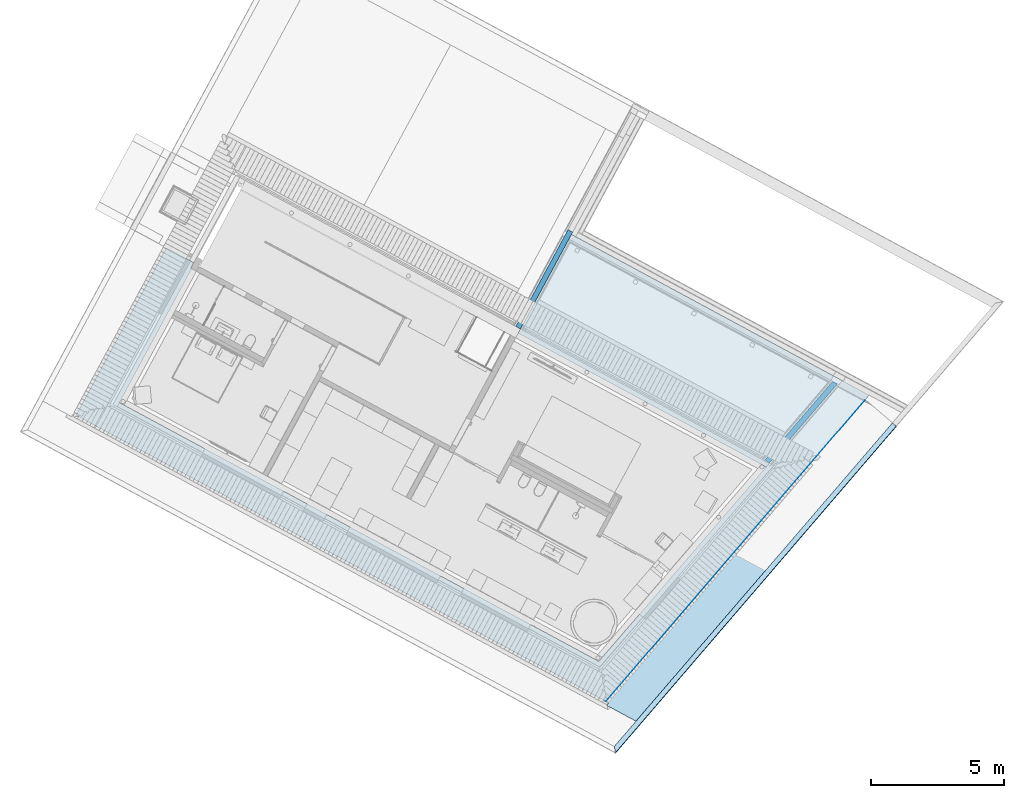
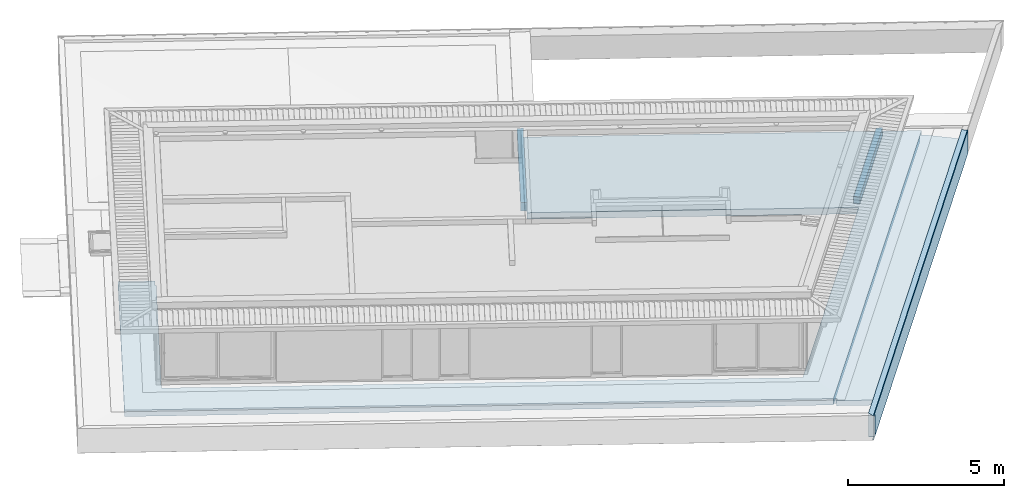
# One storey, part 2 of 48: 5 slabs.
"""IFC2X3 building model written with IfcOpenShell, lengths in metres."""

from ifc_helpers import new_model, entity, si_unit, converted_unit, derived_unit, money_unit, direction, frame, origin_with_axes, place, context, subcontext, project, spatial, faceted_brep, material, material_list, type_object, element, save


model = new_model("IFC2X3")

# Units and contexts
model_context = context("Model", 3, precision=1e-05, world=origin_with_axes(), true_north=direction((0.0, 1.0)))
body_context = subcontext(model_context, "Body", "Model", "MODEL_VIEW")
ifc_project = project(units=[si_unit("LENGTHUNIT", "METRE"), si_unit("AREAUNIT", "SQUARE_METRE"), si_unit("VOLUMEUNIT", "CUBIC_METRE"), converted_unit("PLANEANGLEUNIT", "DEGREE", entity("IfcPlaneAngleMeasure", 0.0174532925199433), si_unit("PLANEANGLEUNIT", "RADIAN"), dimensions=[0, 0, 0, 0, 0, 0, 0]), money_unit("EUR"), converted_unit("TIMEUNIT", "Year", entity("IfcTimeMeasure", 31556926.0), si_unit("TIMEUNIT", "SECOND"), dimensions=[0, 0, 1, 0, 0, 0, 0]), si_unit("MASSUNIT", "GRAM", prefix="KILO"), si_unit("THERMODYNAMICTEMPERATUREUNIT", "DEGREE_CELSIUS"), si_unit("LUMINOUSINTENSITYUNIT", "LUMEN"), si_unit("ENERGYUNIT", "JOULE", prefix="MEGA"), derived_unit("THERMALCONDUCTANCEUNIT", [(si_unit("POWERUNIT", "WATT"), 1), (si_unit("LENGTHUNIT", "METRE"), -1), (si_unit("THERMODYNAMICTEMPERATUREUNIT", "KELVIN"), -1)]), derived_unit("SPECIFICHEATCAPACITYUNIT", [(si_unit("ENERGYUNIT", "JOULE"), 1), (si_unit("MASSUNIT", "GRAM", prefix="KILO"), -1), (si_unit("THERMODYNAMICTEMPERATUREUNIT", "KELVIN"), -1)]), derived_unit("MASSDENSITYUNIT", [(si_unit("MASSUNIT", "GRAM", prefix="KILO"), 1), (si_unit("VOLUMEUNIT", "CUBIC_METRE"), -1)])], contexts=[model_context])

# Site, building, storey
site_placement = place(None, frame((-3.949935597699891, 1.740105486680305, 0.0), z_axis=(0.0, 0.0, 1.0), x_axis=(0.8799804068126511, -0.475009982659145, 0.0)))
site = spatial("IfcSite", under=ifc_project, at=site_placement, Name="Gelände", CompositionType="ELEMENT")
building_placement = place(site_placement, origin_with_axes())
building = spatial("IfcBuilding", under=site, at=building_placement, Name="Gebäude", CompositionType="ELEMENT")
storey_placement = place(building_placement, frame((0.0, 0.0, 4.55), z_axis=(0.0, 0.0, 1.0), x_axis=(1.0, 0.0, 0.0)))
storey = spatial("IfcBuildingStorey", under=building, at=storey_placement, Name="Staffelgeschoss", CompositionType="ELEMENT", Elevation=4.55)

# Slabs
ifc_material_1 = material(Name="_SIWH - Beton, Stahlbeton")
slab_type_1 = type_object("IfcSlabType", Name="_SIWH - Beton, Stahlbeton 250", PredefinedType="NOTDEFINED")
slab_1_placement = place(storey_placement, frame((4.182683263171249, 7.393034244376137, -0.3999999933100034), z_axis=(0.0, 0.0, 1.0), x_axis=(1.0, 0.0, 0.0)))
element("IfcSlab", 1, at=slab_1_placement, inside=storey, type_object=slab_type_1, material=ifc_material_1, Name="Decke009", PredefinedType="NOTDEFINED", context=body_context, shape_type="Brep", body=[
    faceted_brep([(1.174799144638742, 0.0, -0.2499999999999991), (1.17479817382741, -0.03997388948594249, -0.2499999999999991), (1.17479817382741, -0.2399999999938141, -0.2499999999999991), (1.214797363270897, -0.2399999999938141, -0.2499999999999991), (1.214797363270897, -5.968046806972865, -0.2499999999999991), (21.73344188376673, -5.968046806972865, -0.2499999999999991), (23.79364780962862, 3.464766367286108, -0.2499999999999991), (13.18477730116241, 3.464766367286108, -0.2499999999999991), (13.18479451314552, 7.690011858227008, -0.2499999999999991), (25.92431329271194, 7.690011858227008, -0.2499999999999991), (22.67915953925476, -7.168046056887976, -0.2499999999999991), (-0.0002009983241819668, -7.168046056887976, -0.2499999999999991), (0.0, 0.0, -0.2499999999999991), (17.53351601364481, -7.109519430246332, -0.2499999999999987), (17.55032962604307, -7.092705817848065, -0.2499999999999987), (17.56112462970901, -7.071519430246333, -0.2499999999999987), (17.56484433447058, -7.048034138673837, -0.2499999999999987), (17.56112462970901, -7.024548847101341, -0.2499999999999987), (17.55032962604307, -7.003362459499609, -0.2499999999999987), (17.53351601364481, -6.986548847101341, -0.2499999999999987), (17.51232962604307, -6.975753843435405, -0.2499999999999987), (17.48884433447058, -6.972034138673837, -0.2499999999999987), (17.46535904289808, -6.975753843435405, -0.2499999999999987), (17.44417265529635, -6.986548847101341, -0.2499999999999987), (17.42735904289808, -7.003362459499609, -0.2499999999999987), (17.41656403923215, -7.024548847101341, -0.2499999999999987), (17.41284433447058, -7.048034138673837, -0.2499999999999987), (17.41656403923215, -7.071519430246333, -0.2499999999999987), (17.42735904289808, -7.092705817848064, -0.2499999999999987), (17.44417265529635, -7.109519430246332, -0.2499999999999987), (17.46535904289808, -7.120314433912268, -0.2499999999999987), (17.48884433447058, -7.124034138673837, -0.2499999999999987), (17.51232962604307, -7.120314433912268, -0.2499999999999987), (24.87340347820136, 3.152569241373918, -0.2499999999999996), (24.8884705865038, 3.170964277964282, -0.2499999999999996), (24.89711587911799, 3.193114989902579, -0.2499999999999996), (24.89849309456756, 3.216853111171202, -0.2499999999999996), (24.89246742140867, 3.239854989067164, -0.2499999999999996), (24.87962869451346, 3.259869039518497, -0.2499999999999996), (24.8612336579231, 3.274936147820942, -0.2499999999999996), (24.8390829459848, 3.283581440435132, -0.2499999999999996), (24.81534482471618, 3.284958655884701, -0.2499999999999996), (24.79234294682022, 3.278932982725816, -0.2499999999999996), (24.77232889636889, 3.266094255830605, -0.2499999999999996), (24.75726178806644, 3.247699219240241, -0.2499999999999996), (24.74861649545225, 3.225548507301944, -0.2499999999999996), (24.74723928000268, 3.201810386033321, -0.2499999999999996), (24.75326495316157, 3.17880850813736, -0.2499999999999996), (24.76610368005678, 3.158794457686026, -0.2499999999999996), (24.78449871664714, 3.143727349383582, -0.2499999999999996), (24.80664942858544, 3.135082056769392, -0.2499999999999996), (24.83038754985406, 3.133704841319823, -0.2499999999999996), (24.85338942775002, 3.139730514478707, -0.2499999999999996), (20.10018268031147, -7.109519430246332, -0.2499999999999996), (20.11699629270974, -7.092705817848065, -0.2499999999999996), (20.12779129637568, -7.071519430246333, -0.2499999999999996), (20.13151100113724, -7.048034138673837, -0.2499999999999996), (20.12779129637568, -7.024548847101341, -0.2499999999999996), (20.11699629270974, -7.003362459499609, -0.2499999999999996), (20.10018268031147, -6.986548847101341, -0.2499999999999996), (20.07899629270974, -6.975753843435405, -0.2499999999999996), (20.05551100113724, -6.972034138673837, -0.2499999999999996), (20.03202570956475, -6.975753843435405, -0.2499999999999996), (20.01083932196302, -6.986548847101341, -0.2499999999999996), (19.99402570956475, -7.003362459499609, -0.2499999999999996), (19.98323070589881, -7.024548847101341, -0.2499999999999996), (19.97951100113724, -7.048034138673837, -0.2499999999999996), (19.98323070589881, -7.071519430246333, -0.2499999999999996), (19.99402570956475, -7.092705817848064, -0.2499999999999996), (20.01083932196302, -7.109519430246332, -0.2499999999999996), (20.03202570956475, -7.120314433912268, -0.2499999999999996), (20.05551100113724, -7.124034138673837, -0.2499999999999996), (20.07899629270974, -7.120314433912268, -0.2499999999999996), (24.30984373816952, 0.5722671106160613, -0.2499999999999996), (24.32491084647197, 0.5906621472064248, -0.2499999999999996), (24.33355613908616, 0.6128128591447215, -0.2499999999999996), (24.33493335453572, 0.6365509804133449, -0.2499999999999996), (24.32890768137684, 0.659552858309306, -0.2499999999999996), (24.31606895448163, 0.6795669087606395, -0.2499999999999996), (24.29767391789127, 0.694634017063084, -0.2499999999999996), (24.27552320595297, 0.7032793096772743, -0.2499999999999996), (24.25178508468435, 0.7046565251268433, -0.2499999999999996), (24.22878320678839, 0.6986308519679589, -0.2499999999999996), (24.20876915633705, 0.6857921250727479, -0.2499999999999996), (24.19370204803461, 0.6673970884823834, -0.2499999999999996), (24.18505675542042, 0.6452463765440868, -0.2499999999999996), (24.18367953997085, 0.6215082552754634, -0.2499999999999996), (24.18970521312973, 0.5985063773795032, -0.2499999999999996), (24.20254394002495, 0.5784923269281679, -0.2499999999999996), (24.22093897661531, 0.5634252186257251, -0.2499999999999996), (24.24308968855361, 0.5547799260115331, -0.2499999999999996), (24.26682780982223, 0.5534027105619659, -0.2499999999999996), (24.28982968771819, 0.5594283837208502, -0.2499999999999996), (21.19996561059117, 7.508581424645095, -0.2499999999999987), (21.21677922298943, 7.525395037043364, -0.2499999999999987), (21.22757422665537, 7.546581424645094, -0.2499999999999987), (21.23129393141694, 7.570066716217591, -0.2499999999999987), (21.22757422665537, 7.593552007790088, -0.2499999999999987), (21.21677922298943, 7.614738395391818, -0.2499999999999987), (21.19996561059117, 7.631552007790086, -0.2499999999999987), (21.17877922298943, 7.642347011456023, -0.2499999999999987), (21.15529393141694, 7.646066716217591, -0.2499999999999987), (21.13180863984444, 7.642347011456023, -0.2499999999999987), (21.11062225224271, 7.631552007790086, -0.2499999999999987), (21.09380863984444, 7.614738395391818, -0.2499999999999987), (21.08301363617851, 7.593552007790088, -0.2499999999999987), (21.07929393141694, 7.570066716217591, -0.2499999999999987), (21.08301363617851, 7.546581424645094, -0.2499999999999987), (21.09380863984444, 7.525395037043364, -0.2499999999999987), (21.11062225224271, 7.508581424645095, -0.2499999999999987), (21.13180863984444, 7.497786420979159, -0.2499999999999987), (21.15529393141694, 7.49406671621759, -0.2499999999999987), (21.17877922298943, 7.497786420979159, -0.2499999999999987), (16.20296478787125, 7.508581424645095, -0.2499999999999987), (16.21977840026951, 7.525395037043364, -0.2499999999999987), (16.23057340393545, 7.546581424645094, -0.2499999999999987), (16.23429310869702, 7.570066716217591, -0.2499999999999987), (16.23057340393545, 7.593552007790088, -0.2499999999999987), (16.21977840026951, 7.614738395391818, -0.2499999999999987), (16.20296478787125, 7.631552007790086, -0.2499999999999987), (16.18177840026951, 7.642347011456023, -0.2499999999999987), (16.15829310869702, 7.646066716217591, -0.2499999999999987), (16.13480781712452, 7.642347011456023, -0.2499999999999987), (16.11362142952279, 7.631552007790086, -0.2499999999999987), (16.09680781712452, 7.614738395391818, -0.2499999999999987), (16.08601281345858, 7.593552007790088, -0.2499999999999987), (16.08229310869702, 7.570066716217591, -0.2499999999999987), (16.08601281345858, 7.546581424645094, -0.2499999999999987), (16.09680781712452, 7.525395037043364, -0.2499999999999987), (16.11362142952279, 7.508581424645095, -0.2499999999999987), (16.13480781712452, 7.497786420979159, -0.2499999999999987), (16.15829310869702, 7.49406671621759, -0.2499999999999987), (16.18177840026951, 7.497786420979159, -0.2499999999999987), (1.174799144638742, 0.0, 0.0), (1.17479817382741, -0.03997388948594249, 0.0), (1.17479817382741, -0.2399999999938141, 0.0), (1.214797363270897, -0.2399999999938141, 0.0), (1.214797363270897, -5.968046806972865, 0.0), (21.73344188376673, -5.968046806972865, 0.0), (23.79364780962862, 3.464766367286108, 0.0), (13.18477730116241, 3.464766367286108, 0.0), (13.18479451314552, 7.690011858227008, 0.0), (25.92431329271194, 7.690011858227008, 0.0), (22.67915953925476, -7.168046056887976, 0.0), (-0.0002009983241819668, -7.168046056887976, 0.0), (0.0, 0.0, 0.0), (17.55032962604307, -7.092705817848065, -0.05000000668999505), (17.53351601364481, -7.109519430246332, -0.05000000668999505), (17.56112462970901, -7.071519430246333, -0.05000000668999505), (17.56484433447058, -7.048034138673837, -0.05000000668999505), (17.56112462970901, -7.024548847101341, -0.05000000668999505), (17.55032962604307, -7.003362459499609, -0.05000000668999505), (17.53351601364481, -6.986548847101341, -0.05000000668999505), (17.51232962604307, -6.975753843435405, -0.05000000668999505), (17.48884433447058, -6.972034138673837, -0.05000000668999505), (17.46535904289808, -6.975753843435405, -0.05000000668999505), (17.44417265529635, -6.986548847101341, -0.05000000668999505), (17.42735904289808, -7.003362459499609, -0.05000000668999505), (17.41656403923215, -7.024548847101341, -0.05000000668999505), (17.41284433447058, -7.048034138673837, -0.05000000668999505), (17.41656403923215, -7.071519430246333, -0.05000000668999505), (17.42735904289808, -7.092705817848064, -0.05000000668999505), (17.44417265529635, -7.109519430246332, -0.05000000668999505), (17.46535904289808, -7.120314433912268, -0.05000000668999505), (17.48884433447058, -7.124034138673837, -0.05000000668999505), (17.51232962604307, -7.120314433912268, -0.05000000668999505), (24.8884705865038, 3.170964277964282, -0.1299999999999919), (24.87340347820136, 3.152569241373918, -0.1299999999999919), (24.89711587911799, 3.193114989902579, -0.1299999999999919), (24.89849309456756, 3.216853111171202, -0.1299999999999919), (24.89246742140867, 3.239854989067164, -0.1299999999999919), (24.87962869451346, 3.259869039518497, -0.1299999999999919), (24.8612336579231, 3.274936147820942, -0.1299999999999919), (24.8390829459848, 3.283581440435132, -0.1299999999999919), (24.81534482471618, 3.284958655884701, -0.1299999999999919), (24.79234294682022, 3.278932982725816, -0.1299999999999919), (24.77232889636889, 3.266094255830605, -0.1299999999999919), (24.75726178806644, 3.247699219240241, -0.1299999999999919), (24.74861649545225, 3.225548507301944, -0.1299999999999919), (24.74723928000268, 3.201810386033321, -0.1299999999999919), (24.75326495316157, 3.17880850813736, -0.1299999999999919), (24.76610368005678, 3.158794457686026, -0.1299999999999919), (24.78449871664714, 3.143727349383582, -0.1299999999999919), (24.80664942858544, 3.135082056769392, -0.1299999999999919), (24.83038754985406, 3.133704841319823, -0.1299999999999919), (24.85338942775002, 3.139730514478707, -0.1299999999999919), (20.11699629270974, -7.092705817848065, -0.130000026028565), (20.10018268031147, -7.109519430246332, -0.130000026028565), (20.12779129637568, -7.071519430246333, -0.130000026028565), (20.13151100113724, -7.048034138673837, -0.130000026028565), (20.12779129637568, -7.024548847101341, -0.130000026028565), (20.11699629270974, -7.003362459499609, -0.130000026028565), (20.10018268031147, -6.986548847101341, -0.130000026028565), (20.07899629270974, -6.975753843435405, -0.130000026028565), (20.05551100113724, -6.972034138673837, -0.130000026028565), (20.03202570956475, -6.975753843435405, -0.130000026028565), (20.01083932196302, -6.986548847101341, -0.130000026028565), (19.99402570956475, -7.003362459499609, -0.130000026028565), (19.98323070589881, -7.024548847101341, -0.130000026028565), (19.97951100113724, -7.048034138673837, -0.130000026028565), (19.98323070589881, -7.071519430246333, -0.130000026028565), (19.99402570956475, -7.092705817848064, -0.130000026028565), (20.01083932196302, -7.109519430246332, -0.130000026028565), (20.03202570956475, -7.120314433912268, -0.130000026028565), (20.05551100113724, -7.124034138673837, -0.130000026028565), (20.07899629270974, -7.120314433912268, -0.130000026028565), (24.32491084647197, 0.5906621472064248, -0.1299999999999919), (24.30984373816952, 0.5722671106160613, -0.1299999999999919), (24.33355613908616, 0.6128128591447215, -0.1299999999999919), (24.33493335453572, 0.6365509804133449, -0.1299999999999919), (24.32890768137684, 0.659552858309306, -0.1299999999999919), (24.31606895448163, 0.6795669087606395, -0.1299999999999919), (24.29767391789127, 0.694634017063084, -0.1299999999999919), (24.27552320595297, 0.7032793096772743, -0.1299999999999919), (24.25178508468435, 0.7046565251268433, -0.1299999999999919), (24.22878320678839, 0.6986308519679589, -0.1299999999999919), (24.20876915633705, 0.6857921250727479, -0.1299999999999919), (24.19370204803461, 0.6673970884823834, -0.1299999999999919), (24.18505675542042, 0.6452463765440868, -0.1299999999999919), (24.18367953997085, 0.6215082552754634, -0.1299999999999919), (24.18970521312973, 0.5985063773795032, -0.1299999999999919), (24.20254394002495, 0.5784923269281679, -0.1299999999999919), (24.22093897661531, 0.5634252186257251, -0.1299999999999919), (24.24308968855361, 0.5547799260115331, -0.1299999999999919), (24.26682780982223, 0.5534027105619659, -0.1299999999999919), (24.28982968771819, 0.5594283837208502, -0.1299999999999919), (21.21677922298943, 7.525395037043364, -0.1299999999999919), (21.19996561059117, 7.508581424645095, -0.1299999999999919), (21.22757422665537, 7.546581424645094, -0.1299999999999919), (21.23129393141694, 7.570066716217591, -0.1299999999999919), (21.22757422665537, 7.593552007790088, -0.1299999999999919), (21.21677922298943, 7.614738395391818, -0.1299999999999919), (21.19996561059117, 7.631552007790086, -0.1299999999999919), (21.17877922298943, 7.642347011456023, -0.1299999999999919), (21.15529393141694, 7.646066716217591, -0.1299999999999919), (21.13180863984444, 7.642347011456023, -0.1299999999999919), (21.11062225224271, 7.631552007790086, -0.1299999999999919), (21.09380863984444, 7.614738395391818, -0.1299999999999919), (21.08301363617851, 7.593552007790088, -0.1299999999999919), (21.07929393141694, 7.570066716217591, -0.1299999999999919), (21.08301363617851, 7.546581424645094, -0.1299999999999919), (21.09380863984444, 7.525395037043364, -0.1299999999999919), (21.11062225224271, 7.508581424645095, -0.1299999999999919), (21.13180863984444, 7.497786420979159, -0.1299999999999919), (21.15529393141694, 7.49406671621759, -0.1299999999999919), (21.17877922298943, 7.497786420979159, -0.1299999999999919), (16.21977840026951, 7.525395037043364, -0.05000000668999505), (16.20296478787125, 7.508581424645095, -0.05000000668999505), (16.23057340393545, 7.546581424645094, -0.05000000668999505), (16.23429310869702, 7.570066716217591, -0.05000000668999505), (16.23057340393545, 7.593552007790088, -0.05000000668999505), (16.21977840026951, 7.614738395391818, -0.05000000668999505), (16.20296478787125, 7.631552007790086, -0.05000000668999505), (16.18177840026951, 7.642347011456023, -0.05000000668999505), (16.15829310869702, 7.646066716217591, -0.05000000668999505), (16.13480781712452, 7.642347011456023, -0.05000000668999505), (16.11362142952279, 7.631552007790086, -0.05000000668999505), (16.09680781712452, 7.614738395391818, -0.05000000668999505), (16.08601281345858, 7.593552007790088, -0.05000000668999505), (16.08229310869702, 7.570066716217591, -0.05000000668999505), (16.08601281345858, 7.546581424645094, -0.05000000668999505), (16.09680781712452, 7.525395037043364, -0.05000000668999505), (16.11362142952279, 7.508581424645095, -0.05000000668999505), (16.13480781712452, 7.497786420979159, -0.05000000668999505), (16.15829310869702, 7.49406671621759, -0.05000000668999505), (16.18177840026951, 7.497786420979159, -0.05000000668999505)], [[[0, 1, 2, 3, 4, 5, 6, 7, 8, 9, 10, 11, 12], [13, 14, 15, 16, 17, 18, 19, 20, 21, 22, 23, 24, 25, 26, 27, 28, 29, 30, 31, 32], [33, 34, 35, 36, 37, 38, 39, 40, 41, 42, 43, 44, 45, 46, 47, 48, 49, 50, 51, 52], [53, 54, 55, 56, 57, 58, 59, 60, 61, 62, 63, 64, 65, 66, 67, 68, 69, 70, 71, 72], [73, 74, 75, 76, 77, 78, 79, 80, 81, 82, 83, 84, 85, 86, 87, 88, 89, 90, 91, 92], [93, 94, 95, 96, 97, 98, 99, 100, 101, 102, 103, 104, 105, 106, 107, 108, 109, 110, 111, 112], [113, 114, 115, 116, 117, 118, 119, 120, 121, 122, 123, 124, 125, 126, 127, 128, 129, 130, 131, 132]], [[0, 133, 134, 1]], [[135, 2, 1, 134]], [[3, 2, 135, 136]], [[137, 4, 3, 136]], [[4, 137, 138, 5]], [[5, 138, 139, 6]], [[6, 139, 140, 7]], [[7, 140, 141, 8]], [[8, 141, 142, 9]], [[9, 142, 143, 10]], [[10, 143, 144, 11]], [[11, 144, 145, 12]], [[12, 145, 133, 0]], [[146, 14, 13, 147]], [[148, 15, 14, 146]], [[149, 16, 15, 148]], [[150, 17, 16, 149]], [[151, 18, 17, 150]], [[152, 19, 18, 151]], [[153, 20, 19, 152]], [[154, 21, 20, 153]], [[155, 22, 21, 154]], [[156, 23, 22, 155]], [[157, 24, 23, 156]], [[158, 25, 24, 157]], [[159, 26, 25, 158]], [[160, 27, 26, 159]], [[161, 28, 27, 160]], [[162, 29, 28, 161]], [[163, 30, 29, 162]], [[164, 31, 30, 163]], [[165, 32, 31, 164]], [[147, 13, 32, 165]], [[166, 34, 33, 167]], [[168, 35, 34, 166]], [[169, 36, 35, 168]], [[170, 37, 36, 169]], [[171, 38, 37, 170]], [[172, 39, 38, 171]], [[173, 40, 39, 172]], [[174, 41, 40, 173]], [[175, 42, 41, 174]], [[176, 43, 42, 175]], [[177, 44, 43, 176]], [[178, 45, 44, 177]], [[179, 46, 45, 178]], [[180, 47, 46, 179]], [[181, 48, 47, 180]], [[182, 49, 48, 181]], [[183, 50, 49, 182]], [[184, 51, 50, 183]], [[185, 52, 51, 184]], [[167, 33, 52, 185]], [[186, 54, 53, 187]], [[188, 55, 54, 186]], [[189, 56, 55, 188]], [[190, 57, 56, 189]], [[191, 58, 57, 190]], [[192, 59, 58, 191]], [[193, 60, 59, 192]], [[194, 61, 60, 193]], [[195, 62, 61, 194]], [[196, 63, 62, 195]], [[197, 64, 63, 196]], [[198, 65, 64, 197]], [[199, 66, 65, 198]], [[200, 67, 66, 199]], [[201, 68, 67, 200]], [[202, 69, 68, 201]], [[203, 70, 69, 202]], [[204, 71, 70, 203]], [[205, 72, 71, 204]], [[187, 53, 72, 205]], [[206, 74, 73, 207]], [[208, 75, 74, 206]], [[209, 76, 75, 208]], [[210, 77, 76, 209]], [[211, 78, 77, 210]], [[212, 79, 78, 211]], [[213, 80, 79, 212]], [[214, 81, 80, 213]], [[215, 82, 81, 214]], [[216, 83, 82, 215]], [[217, 84, 83, 216]], [[218, 85, 84, 217]], [[219, 86, 85, 218]], [[220, 87, 86, 219]], [[221, 88, 87, 220]], [[222, 89, 88, 221]], [[223, 90, 89, 222]], [[224, 91, 90, 223]], [[225, 92, 91, 224]], [[207, 73, 92, 225]], [[226, 94, 93, 227]], [[228, 95, 94, 226]], [[229, 96, 95, 228]], [[230, 97, 96, 229]], [[231, 98, 97, 230]], [[232, 99, 98, 231]], [[233, 100, 99, 232]], [[234, 101, 100, 233]], [[235, 102, 101, 234]], [[236, 103, 102, 235]], [[237, 104, 103, 236]], [[238, 105, 104, 237]], [[239, 106, 105, 238]], [[240, 107, 106, 239]], [[241, 108, 107, 240]], [[242, 109, 108, 241]], [[243, 110, 109, 242]], [[244, 111, 110, 243]], [[245, 112, 111, 244]], [[227, 93, 112, 245]], [[246, 114, 113, 247]], [[248, 115, 114, 246]], [[249, 116, 115, 248]], [[250, 117, 116, 249]], [[251, 118, 117, 250]], [[252, 119, 118, 251]], [[253, 120, 119, 252]], [[254, 121, 120, 253]], [[255, 122, 121, 254]], [[256, 123, 122, 255]], [[257, 124, 123, 256]], [[258, 125, 124, 257]], [[259, 126, 125, 258]], [[260, 127, 126, 259]], [[261, 128, 127, 260]], [[262, 129, 128, 261]], [[263, 130, 129, 262]], [[264, 131, 130, 263]], [[265, 132, 131, 264]], [[247, 113, 132, 265]], [[137, 136, 135, 134, 133, 145, 144, 143, 142, 141, 140, 139, 138]], [[160, 159, 158, 157, 156, 155, 154, 153, 152, 151, 150, 149, 148, 146, 147, 165, 164, 163, 162, 161]], [[179, 178, 177, 176, 175, 174, 173, 172, 171, 170, 169, 168, 166, 167, 185, 184, 183, 182, 181, 180]], [[200, 199, 198, 197, 196, 195, 194, 193, 192, 191, 190, 189, 188, 186, 187, 205, 204, 203, 202, 201]], [[219, 218, 217, 216, 215, 214, 213, 212, 211, 210, 209, 208, 206, 207, 225, 224, 223, 222, 221, 220]], [[240, 239, 238, 237, 236, 235, 234, 233, 232, 231, 230, 229, 228, 226, 227, 245, 244, 243, 242, 241]], [[260, 259, 258, 257, 256, 255, 254, 253, 252, 251, 250, 249, 248, 246, 247, 265, 264, 263, 262, 261]]]),
])
slab_2_placement = place(storey_placement, frame((30.05457860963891, 14.84304620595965, -0.3999999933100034), z_axis=(0.0, 0.0, 1.0), x_axis=(1.0, 0.0, 0.0)))
element("IfcSlab", 2, at=slab_2_placement, inside=storey, type_object=slab_type_1, material=ifc_material_1, Name="Decke-004", PredefinedType="NOTDEFINED", context=body_context, shape_type="Brep", body=[
    faceted_brep([(-3.192735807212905, -14.61805801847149, 0.0), (0.0, 0.0, 0.0), (0.0, 0.0, -0.2499999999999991), (-3.192735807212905, -14.61805801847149, -0.2499999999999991), (-3.192707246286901, -14.61805801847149, 0.0), (-3.192707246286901, -14.61805801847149, -0.2499999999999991)], [[[0, 1, 2, 3]], [[0, 4, 1]], [[1, 4, 5, 2]], [[5, 3, 2]], [[4, 0, 3, 5]]]),
])
slab_type_2 = type_object("IfcSlabType", Name="_SIWH - Beton, Stahlbeton 200", PredefinedType="NOTDEFINED")
slab_3_placement = place(storey_placement, frame((17.36747696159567, 14.88304610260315, -0.4499999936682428), z_axis=(0.0, 0.0, 1.0), x_axis=(0.0, -1.0, 0.0)))
element("IfcSlab", 3, at=slab_3_placement, inside=storey, type_object=slab_type_2, material=ifc_material_1, Name="Wand-026", PredefinedType="NOTDEFINED", context=body_context, shape_type="Brep", body=[
    faceted_brep([(-0.3000008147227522, 0.0, 0.05000000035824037), (-0.3000008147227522, 0.0, 0.3249999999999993), (3.845245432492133, 0.0, 0.3249999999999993), (3.845245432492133, 0.0, 0.0), (0.0, 0.0, 0.0), (0.0, 0.0, 0.05000000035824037), (-0.3000008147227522, -0.1999999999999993, 0.05000000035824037), (-0.3000008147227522, -0.1999999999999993, 0.3249999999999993), (3.845245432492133, -0.1999999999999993, 0.3249999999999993), (3.845245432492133, -0.1999999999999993, 0.0), (0.0, -0.1999999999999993, 0.0), (0.0, -0.1999999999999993, 0.05000000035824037)], [[[0, 1, 2, 3, 4, 5]], [[0, 6, 7, 1]], [[7, 8, 2, 1]], [[2, 8, 9, 3]], [[10, 4, 3, 9]], [[5, 4, 10, 11]], [[6, 0, 5, 11]], [[9, 8, 7, 6, 11, 10]]]),
])
slab_4_placement = place(storey_placement, frame((28.01564459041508, 11.0378006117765, -0.3999999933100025), z_axis=(0.0, 0.0, 1.0), x_axis=(0.2133784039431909, 0.9769696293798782, 0.0)))
element("IfcSlab", 4, at=slab_4_placement, inside=storey, type_object=slab_type_2, material=ifc_material_1, Name="Wand-026", PredefinedType="NOTDEFINED", context=body_context, shape_type="Brep", body=[
    faceted_brep([(3.892161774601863, 0.2000000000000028, 0.2749999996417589), (0.0, 0.2000000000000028, 0.2749999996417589), (0.0, 0.0, 0.2749999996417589), (3.935842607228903, 0.0, 0.2749999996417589), (3.892161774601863, 0.2000000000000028, 0.0), (0.0, 0.2000000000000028, 0.0), (0.0, 0.0, 0.0), (3.935842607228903, 0.0, 0.0)], [[[0, 1, 2, 3]], [[4, 5, 1, 0]], [[5, 6, 2, 1]], [[3, 2, 6, 7]], [[0, 3, 7, 4]], [[7, 6, 5, 4]]]),
])
ifc_material_2 = material(Name="_SIWH - Metall, Aluminium")
ifc_material_3 = material(Name="_SIWH - Beton, Stahlbeton Fertigteil")
ifc_material_4 = material(Name="_SIWH - Dämmung, weich Mineralwolle")
ifc_material_list = material_list([ifc_material_2, ifc_material_3, ifc_material_1, ifc_material_4])
slab_type_3 = type_object("IfcSlabType", Name="_SIWH - Vordach+Arkade1 1555 x 980", PredefinedType="NOTDEFINED")
slab_5_placement = place(storey_placement, frame((30.06017097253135, 14.86865152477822, -0.3999999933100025), z_axis=(0.0, 0.0, 1.0), x_axis=(-0.2133784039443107, -0.9769696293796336, 0.0)))
element("IfcSlab", 5, at=slab_5_placement, inside=storey, type_object=slab_type_3, material=ifc_material_list, Name="Wand-024", PredefinedType="NOTDEFINED", context=body_context, shape_type="Brep", body=[
    faceted_brep([(16.19109619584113, 1.493152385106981, 0.374403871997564), (16.19117661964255, 1.49325226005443, 0.3724063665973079), (16.18234894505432, 1.533202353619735, 0.374403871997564), (0.0, 1.493152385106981, 0.3744038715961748), (0.0, 1.493252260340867, 0.372406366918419), (16.1830301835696, 1.534048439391, 0.3744461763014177), (0.0, 1.534048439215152, 0.3744461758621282), (16.22269331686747, 1.535861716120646, 0.3764030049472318), (16.22328884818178, 1.533135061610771, 0.3764030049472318), (0.0, 1.533135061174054, 0.3764030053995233), (0.0, 1.555000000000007, 0.3999999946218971), (0.0, 1.55500000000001, 0.3449999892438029), (0.0, 1.553000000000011, 0.3449999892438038), (0.0, 1.553000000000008, 0.3948980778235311), (16.23649166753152, 1.552999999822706, 0.394898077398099), (16.23708736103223, 1.550272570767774, 0.394898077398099), (16.24089372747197, 1.555000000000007, 0.400000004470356), (16.23884657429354, 1.555, 0.3699875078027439), (16.23884657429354, 1.555, 0.3449999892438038), (16.23605485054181, 1.555, 0.3948980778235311), (16.23884657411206, 1.555000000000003, 0.394898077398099), (16.23884657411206, 1.555000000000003, 0.3724063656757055), (16.23928339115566, 1.553000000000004, 0.3449999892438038), (16.23928339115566, 1.553000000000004, 0.3699875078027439), (16.23928339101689, 1.552999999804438, 0.3724063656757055), (16.23928339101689, 1.552999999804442, 0.3948980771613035)], [[[0, 1, 2]], [[1, 0, 3, 4]], [[5, 2, 1, 4, 6]], [[7, 8, 0, 2, 5]], [[0, 8, 9, 3]], [[4, 3, 9, 10, 11, 12, 13, 6]], [[7, 5, 6, 13, 14]], [[14, 15, 8, 7]], [[8, 15, 16, 10, 9]], [[17, 18, 11, 10, 16, 19, 20, 21]], [[18, 22, 12, 11]], [[22, 23, 24, 25, 14, 13, 12]], [[15, 14, 19, 16]], [[23, 22, 18, 17]], [[14, 25, 20, 19]], [[25, 24, 21, 20]], [[24, 23, 17, 21]]]),
    faceted_brep([(16.03904783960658, 1.494999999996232, -0.5649999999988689), (16.07180910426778, 1.3449999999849, -0.5649999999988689), (16.07180910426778, 1.3449999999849, -0.5699999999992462), (16.04013988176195, 1.489999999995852, -0.5699999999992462), (16.02812741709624, 1.5449999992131, -0.2000000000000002), (16.0718091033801, 1.344999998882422, -0.2000000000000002), (16.02812741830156, 1.544999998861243, -0.5650000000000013), (0.0, 1.344999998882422, -0.2000000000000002), (0.0, 1.345000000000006, -0.5700000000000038), (16.07986075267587, 1.354999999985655, -0.5800000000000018), (16.05255969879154, 1.479999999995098, -0.5800000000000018), (0.0, 1.495000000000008, -0.5650000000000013), (0.0, 1.480000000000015, -0.5800000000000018), (16.02812741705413, 1.544999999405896, 1.11758868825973e-09), (16.0718091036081, 1.344999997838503, 1.11758868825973e-09), (16.19258383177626, 1.494999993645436, -0.5649999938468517), (16.18166340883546, 1.545000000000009, -0.5649999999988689), (16.18678127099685, 1.545000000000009, -0.5699999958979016), (0.0, 1.545000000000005, -0.5700000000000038), (0.0, 1.545000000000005, 0.3699875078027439), (16.23284207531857, 1.545000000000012, 0.3699875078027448), (16.02812741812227, 1.54499999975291, 0.3599875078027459), (16.0281274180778, 1.544999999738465, 0.3449999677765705), (0.0, 1.510000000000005, -0.5800000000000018), (0.0, 1.355000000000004, -0.5800000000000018), (0.0, 1.344999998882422, 1.11758868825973e-09), (0.0, 1.345000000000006, 0.3599875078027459), (0.0, 1.535, -0.5800000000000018), (16.20466130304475, 1.509999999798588, -0.5800000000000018), (16.0718091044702, 1.344999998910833, 0.3449999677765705), (16.19920109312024, 1.534999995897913, -0.5800000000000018), (16.07180910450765, 1.34499999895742, 0.3599875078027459)], [[[0, 1, 2, 3]], [[4, 5, 1, 0, 6]], [[7, 8, 2, 1, 5]], [[3, 2, 9, 10]], [[11, 0, 3, 10, 12]], [[4, 13, 14, 5]], [[6, 0, 15, 16]], [[4, 6, 16, 17, 18, 19, 20, 21, 22, 13]], [[23, 11, 12, 24, 8, 7, 25, 26, 19, 18, 27]], [[8, 24, 9, 2]], [[25, 7, 5, 14]], [[24, 12, 10, 9]], [[11, 23, 28, 15, 0]], [[13, 22, 29, 14]], [[16, 15, 28, 30, 17]], [[27, 18, 17, 30]], [[19, 26, 31, 20]], [[31, 21, 20]], [[22, 21, 31, 29]], [[26, 25, 14, 29, 31]], [[23, 27, 30, 28]]]),
    faceted_brep([(0.0, 1.344999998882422, 1.11758868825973e-09), (0.0, 0.120000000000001, 1.11758868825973e-09), (15.08548217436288, 0.120000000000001, 1.11758868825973e-09), (14.81793184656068, 1.344999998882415, 1.11758868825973e-09), (0.0, 1.344999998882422, -0.2000000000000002), (0.0, 0.120000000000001, -0.1999999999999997), (15.08548217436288, 0.120000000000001, -0.1999999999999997), (14.81793184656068, 1.344999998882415, -0.1999999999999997)], [[[0, 1, 2, 3]], [[4, 5, 1, 0]], [[1, 5, 6, 2]], [[2, 6, 7, 3]], [[4, 0, 3, 7]], [[5, 4, 7, 6]]]),
    faceted_brep([(-1.06792604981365e-07, 0.1200000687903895, -0.2000000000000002), (-1.06792604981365e-07, 0.1200000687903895, 0.0), (14.96265338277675, 0.1199999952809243, 5.496263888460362e-09), (14.96265338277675, 0.1199999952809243, -0.1999999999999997), (0.02620890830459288, 5.335961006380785e-08, 0.0), (0.02620890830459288, 5.335961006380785e-08, -0.2000000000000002), (14.98886239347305, 0.0, 5.496263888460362e-09), (14.98886239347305, 0.0, -0.1999999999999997)], [[[0, 1, 2, 3]], [[4, 1, 0, 5]], [[1, 4, 6, 2]], [[6, 7, 3, 2]], [[5, 0, 3, 7]], [[4, 5, 7, 6]]]),
])

save(model, "model.ifc")
